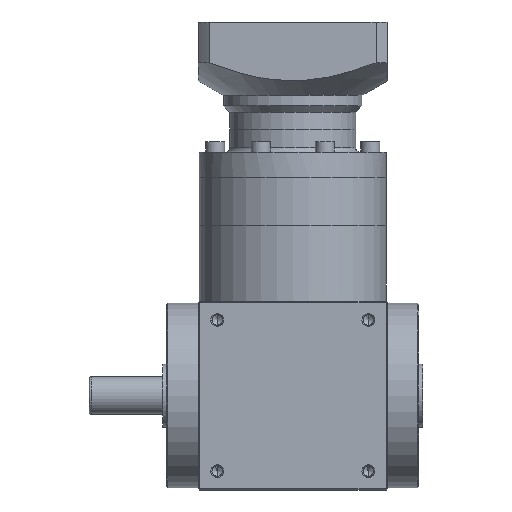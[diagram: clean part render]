
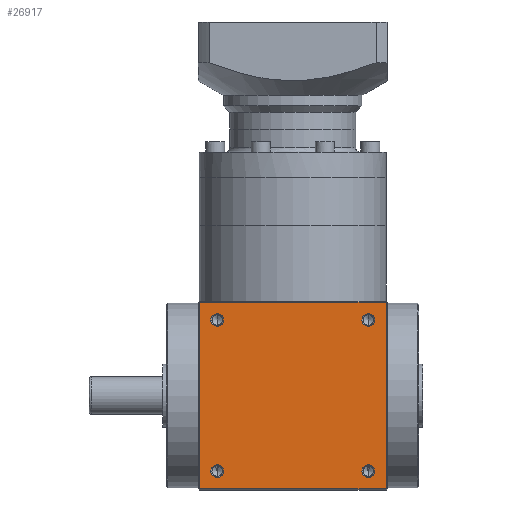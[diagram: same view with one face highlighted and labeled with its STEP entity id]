
A CAD part, front view. The second image highlights one B-rep face of the part: STEP entity #26917.
In plain terms, the highlighted planar face has unit normal (0, -1, 0).
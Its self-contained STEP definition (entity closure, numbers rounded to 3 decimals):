
#71 = VERTEX_POINT ( 'NONE', #33854 ) ;
#124 = FACE_BOUND ( 'NONE', #24734, .T. ) ;
#324 = VECTOR ( 'NONE', #5815, 1000. ) ;
#339 = PLANE ( 'NONE',  #49886 ) ;
#692 = CARTESIAN_POINT ( 'NONE',  ( 44.5, -45., 89.5 ) ) ;
#786 = ORIENTED_EDGE ( 'NONE', *, *, #23927, .F. ) ;
#1374 = FACE_BOUND ( 'NONE', #7698, .T. ) ;
#1482 = CIRCLE ( 'NONE', #6732, 3.025 ) ;
#1548 = CARTESIAN_POINT ( 'NONE',  ( 36., -45., 9. ) ) ;
#2533 = AXIS2_PLACEMENT_3D ( 'NONE', #1548, #29810, #5623 ) ;
#2671 = ORIENTED_EDGE ( 'NONE', *, *, #49996, .F. ) ;
#3987 = CARTESIAN_POINT ( 'NONE',  ( 36., -45., 77.975 ) ) ;
#4682 = ORIENTED_EDGE ( 'NONE', *, *, #16926, .F. ) ;
#5623 = DIRECTION ( 'NONE',  ( 0., 0., -1. ) ) ;
#5815 = DIRECTION ( 'NONE',  ( 0., 0., 1. ) ) ;
#6052 = DIRECTION ( 'NONE',  ( 1., 0., 0. ) ) ;
#6188 = AXIS2_PLACEMENT_3D ( 'NONE', #42664, #18527, #46729 ) ;
#6318 = CARTESIAN_POINT ( 'NONE',  ( -36., -45., 5.975 ) ) ;
#6648 = CIRCLE ( 'NONE', #14381, 3.025 ) ;
#6732 = AXIS2_PLACEMENT_3D ( 'NONE', #14610, #42823, #18689 ) ;
#7055 = CARTESIAN_POINT ( 'NONE',  ( 36., -45., 84.025 ) ) ;
#7319 = EDGE_CURVE ( 'NONE', #42762, #34921, #31115, .T. ) ;
#7476 = CIRCLE ( 'NONE', #47754, 3.025 ) ;
#7698 = EDGE_LOOP ( 'NONE', ( #786, #51737 ) ) ;
#8205 = AXIS2_PLACEMENT_3D ( 'NONE', #40608, #16467, #44664 ) ;
#9916 = DIRECTION ( 'NONE',  ( 0., -1., 0. ) ) ;
#10046 = CIRCLE ( 'NONE', #6188, 3.025 ) ;
#10090 = EDGE_LOOP ( 'NONE', ( #2671, #21239 ) ) ;
#10109 = VERTEX_POINT ( 'NONE', #24573 ) ;
#10606 = EDGE_CURVE ( 'NONE', #40576, #38596, #7476, .T. ) ;
#11041 = CARTESIAN_POINT ( 'NONE',  ( 36., -45., 12.025 ) ) ;
#11304 = CARTESIAN_POINT ( 'NONE',  ( -36., -45., 9. ) ) ;
#11768 = EDGE_CURVE ( 'NONE', #52365, #41900, #26327, .T. ) ;
#12346 = CARTESIAN_POINT ( 'NONE',  ( -36., -45., 81. ) ) ;
#13363 = ORIENTED_EDGE ( 'NONE', *, *, #23645, .F. ) ;
#13813 = CIRCLE ( 'NONE', #42334, 3.025 ) ;
#14381 = AXIS2_PLACEMENT_3D ( 'NONE', #11304, #39538, #15385 ) ;
#14610 = CARTESIAN_POINT ( 'NONE',  ( -36., -45., 9. ) ) ;
#15385 = DIRECTION ( 'NONE',  ( 0., 0., -1. ) ) ;
#16203 = CIRCLE ( 'NONE', #2533, 3.025 ) ;
#16266 = ORIENTED_EDGE ( 'NONE', *, *, #35086, .F. ) ;
#16427 = DIRECTION ( 'NONE',  ( 0., 0., -1. ) ) ;
#16467 = DIRECTION ( 'NONE',  ( 0., -1., 0. ) ) ;
#16926 = EDGE_CURVE ( 'NONE', #71, #42762, #32535, .T. ) ;
#17675 = CARTESIAN_POINT ( 'NONE',  ( -36., -45., 84.025 ) ) ;
#17686 = CARTESIAN_POINT ( 'NONE',  ( -44.5, -45., 89.5 ) ) ;
#17851 = CARTESIAN_POINT ( 'NONE',  ( -44.5, -45., 90. ) ) ;
#18401 = ORIENTED_EDGE ( 'NONE', *, *, #45714, .F. ) ;
#18444 = VECTOR ( 'NONE', #25777, 1000. ) ;
#18527 = DIRECTION ( 'NONE',  ( 0., -1., 0. ) ) ;
#18689 = DIRECTION ( 'NONE',  ( 0., 0., -1. ) ) ;
#19830 = VERTEX_POINT ( 'NONE', #6318 ) ;
#20006 = ORIENTED_EDGE ( 'NONE', *, *, #41511, .F. ) ;
#20348 = FACE_OUTER_BOUND ( 'NONE', #21478, .T. ) ;
#20513 = EDGE_CURVE ( 'NONE', #31094, #37583, #50460, .T. ) ;
#21029 = EDGE_CURVE ( 'NONE', #41900, #52365, #10046, .T. ) ;
#21239 = ORIENTED_EDGE ( 'NONE', *, *, #10606, .F. ) ;
#21403 = DIRECTION ( 'NONE',  ( 0., 0., -1. ) ) ;
#21478 = EDGE_LOOP ( 'NONE', ( #16266, #20006, #46204, #4682 ) ) ;
#21703 = CARTESIAN_POINT ( 'NONE',  ( -45., -45., 0.5 ) ) ;
#22566 = DIRECTION ( 'NONE',  ( 0., -1., 0. ) ) ;
#23645 = EDGE_CURVE ( 'NONE', #10109, #19830, #6648, .T. ) ;
#23927 = EDGE_CURVE ( 'NONE', #37583, #31094, #16203, .T. ) ;
#24573 = CARTESIAN_POINT ( 'NONE',  ( -36., -45., 12.025 ) ) ;
#24711 = DIRECTION ( 'NONE',  ( 0., 0., 1. ) ) ;
#24734 = EDGE_LOOP ( 'NONE', ( #18401, #13363 ) ) ;
#25777 = DIRECTION ( 'NONE',  ( -1., 0., 0. ) ) ;
#26327 = CIRCLE ( 'NONE', #49128, 3.025 ) ;
#26917 = ADVANCED_FACE ( 'NONE', ( #31081, #32347, #1374, #124, #20348 ), #339, .F. ) ;
#27364 = CARTESIAN_POINT ( 'NONE',  ( 44.5, -45., 0.5 ) ) ;
#28160 = CARTESIAN_POINT ( 'NONE',  ( -36., -45., 77.975 ) ) ;
#29810 = DIRECTION ( 'NONE',  ( 0., -1., 0. ) ) ;
#31081 = FACE_BOUND ( 'NONE', #34027, .T. ) ;
#31094 = VERTEX_POINT ( 'NONE', #11041 ) ;
#31115 = LINE ( 'NONE', #38015, #51300 ) ;
#32347 = FACE_BOUND ( 'NONE', #10090, .T. ) ;
#32535 = LINE ( 'NONE', #17851, #324 ) ;
#33185 = CARTESIAN_POINT ( 'NONE',  ( 36., -45., 5.975 ) ) ;
#33854 = CARTESIAN_POINT ( 'NONE',  ( -44.5, -45., 0.5 ) ) ;
#34027 = EDGE_LOOP ( 'NONE', ( #41060, #42140 ) ) ;
#34088 = CARTESIAN_POINT ( 'NONE',  ( -36., -45., 81. ) ) ;
#34921 = VERTEX_POINT ( 'NONE', #692 ) ;
#35086 = EDGE_CURVE ( 'NONE', #35351, #71, #50601, .T. ) ;
#35351 = VERTEX_POINT ( 'NONE', #27364 ) ;
#37583 = VERTEX_POINT ( 'NONE', #33185 ) ;
#38015 = CARTESIAN_POINT ( 'NONE',  ( -45., -45., 89.5 ) ) ;
#38158 = DIRECTION ( 'NONE',  ( 0., 0., -1. ) ) ;
#38596 = VERTEX_POINT ( 'NONE', #28160 ) ;
#39538 = DIRECTION ( 'NONE',  ( 0., -1., 0. ) ) ;
#40564 = DIRECTION ( 'NONE',  ( 0., -1., 0. ) ) ;
#40576 = VERTEX_POINT ( 'NONE', #17675 ) ;
#40608 = CARTESIAN_POINT ( 'NONE',  ( 36., -45., 9. ) ) ;
#40726 = CARTESIAN_POINT ( 'NONE',  ( -45., -45., 90. ) ) ;
#40960 = LINE ( 'NONE', #45556, #51714 ) ;
#41060 = ORIENTED_EDGE ( 'NONE', *, *, #21029, .F. ) ;
#41511 = EDGE_CURVE ( 'NONE', #34921, #35351, #40960, .T. ) ;
#41900 = VERTEX_POINT ( 'NONE', #3987 ) ;
#42140 = ORIENTED_EDGE ( 'NONE', *, *, #11768, .F. ) ;
#42334 = AXIS2_PLACEMENT_3D ( 'NONE', #34088, #9916, #38158 ) ;
#42664 = CARTESIAN_POINT ( 'NONE',  ( 36., -45., 81. ) ) ;
#42762 = VERTEX_POINT ( 'NONE', #17686 ) ;
#42823 = DIRECTION ( 'NONE',  ( 0., -1., 0. ) ) ;
#44664 = DIRECTION ( 'NONE',  ( 0., 0., -1. ) ) ;
#45556 = CARTESIAN_POINT ( 'NONE',  ( 44.5, -45., 90. ) ) ;
#45714 = EDGE_CURVE ( 'NONE', #19830, #10109, #1482, .T. ) ;
#46204 = ORIENTED_EDGE ( 'NONE', *, *, #7319, .F. ) ;
#46703 = CARTESIAN_POINT ( 'NONE',  ( 36., -45., 81. ) ) ;
#46729 = DIRECTION ( 'NONE',  ( 0., 0., -1. ) ) ;
#47754 = AXIS2_PLACEMENT_3D ( 'NONE', #12346, #40564, #16427 ) ;
#48841 = DIRECTION ( 'NONE',  ( 0., 1., 0. ) ) ;
#49128 = AXIS2_PLACEMENT_3D ( 'NONE', #46703, #22566, #50748 ) ;
#49886 = AXIS2_PLACEMENT_3D ( 'NONE', #40726, #48841, #24711 ) ;
#49996 = EDGE_CURVE ( 'NONE', #38596, #40576, #13813, .T. ) ;
#50460 = CIRCLE ( 'NONE', #8205, 3.025 ) ;
#50601 = LINE ( 'NONE', #21703, #18444 ) ;
#50748 = DIRECTION ( 'NONE',  ( 0., 0., -1. ) ) ;
#51300 = VECTOR ( 'NONE', #6052, 1000. ) ;
#51714 = VECTOR ( 'NONE', #21403, 1000. ) ;
#51737 = ORIENTED_EDGE ( 'NONE', *, *, #20513, .F. ) ;
#52365 = VERTEX_POINT ( 'NONE', #7055 ) ;
